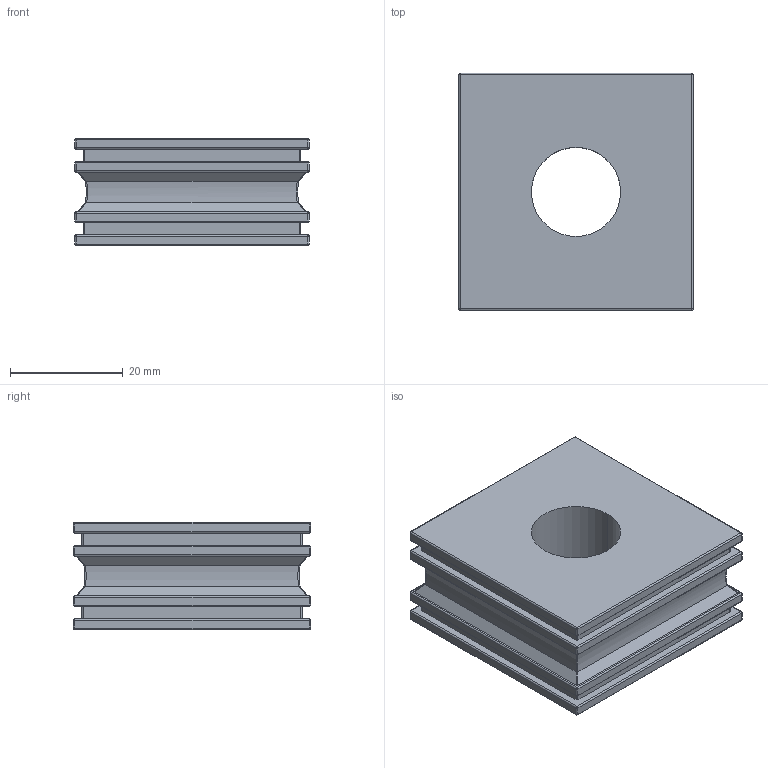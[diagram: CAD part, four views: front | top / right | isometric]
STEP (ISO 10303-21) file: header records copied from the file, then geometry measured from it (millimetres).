
FILE_DESCRIPTION (( 'STEP AP203' ), '1' );
FILE_NAME ('041216 KT16.STEP', '2023-03-07T06:35:59', ( '' ), ( '' ), 'SwSTEP 2.0', 'SolidWorks 2016', '' );
FILE_SCHEMA (( 'CONFIG_CONTROL_DESIGN' ));
Length unit declared in the file: millimetre
Products named in the file (1): 041216 KT16
Bounding box: 41.5 x 42 x 19 mm (x, y, z)
Volume: 26513.1 mm3; surface area: 8221.4 mm2
Topology: 1 solids, 1 shells, 195 faces, 480 edges, 266 vertices
Faces by surface type: plane 80, cylinder 71, bspline 44
Entity records: 6495 total; most frequent: CARTESIAN_POINT 2262, ORIENTED_EDGE 896, DIRECTION 806, EDGE_CURVE 448, AXIS2_PLACEMENT_3D 270, VECTOR 266, LINE 266, VERTEX_POINT 266
